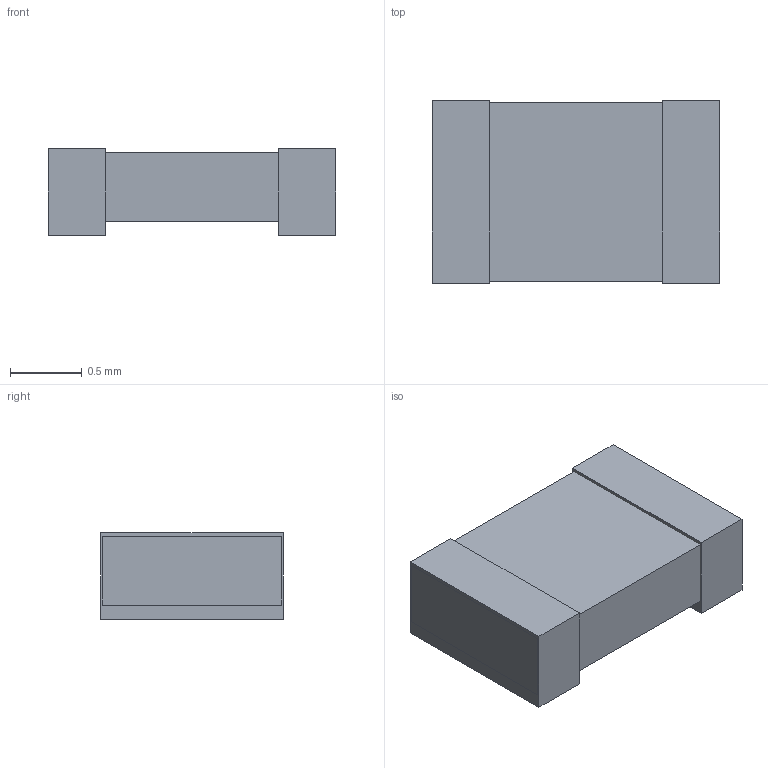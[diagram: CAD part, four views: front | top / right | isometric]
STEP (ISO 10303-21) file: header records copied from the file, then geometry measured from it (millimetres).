
FILE_DESCRIPTION(('FreeCAD Model'),'2;1');
FILE_NAME('Open CASCADE Shape Model','2026-09-21T21:53:17',('FreeCAD'),( 'FreeCAD'),'Open CASCADE STEP processor 7.8','FreeCAD','Unknown');
FILE_SCHEMA(('AUTOMOTIVE_DESIGN { 1 0 10303 214 1 1 1 1 }'));
Length unit declared in the file: millimetre
Products named in the file (1): Open CASCADE STEP translator 7.8 6
Bounding box: 2 x 1.27 x 0.6 mm (x, y, z)
Surface area: 14.2 mm2
Topology: 3 solids, 3 shells, 18 faces, 36 edges, 24 vertices
Faces by surface type: plane 18
Entity records: 466 total; most frequent: CARTESIAN_POINT 79, DIRECTION 74, ORIENTED_EDGE 72, EDGE_CURVE 36, LINE 36, VECTOR 36, VERTEX_POINT 24, AXIS2_PLACEMENT_3D 19
